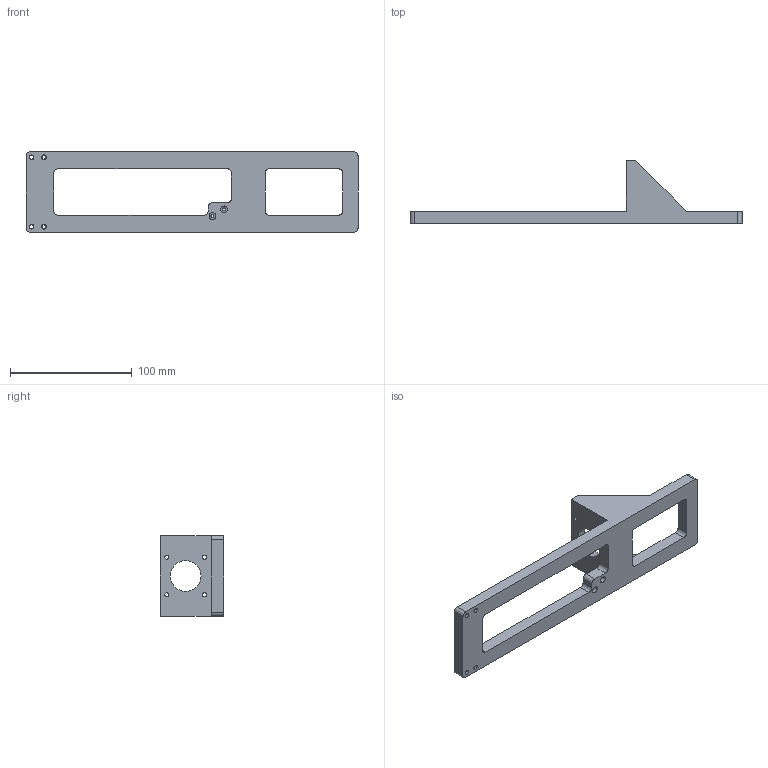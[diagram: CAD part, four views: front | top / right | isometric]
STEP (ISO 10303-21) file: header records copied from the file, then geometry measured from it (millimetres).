
FILE_DESCRIPTION (( 'STEP AP214' ), '1' );
FILE_NAME ('Base, Desk Top, Biolink R01.STEP', '2026-07-27T21:05:46', ( '' ), ( '' ), 'SwSTEP 2.0', 'SolidWorks 2025', '' );
FILE_SCHEMA (( 'AUTOMOTIVE_DESIGN' ));
Length unit declared in the file: inch
Products named in the file (1): Base, Desk Top, Biolink R01
Bounding box: 273.05 x 52.07 x 66.04 mm (x, y, z)
Volume: 127287 mm3; surface area: 45489.9 mm2
Topology: 1 solids, 1 shells, 94 faces, 246 edges, 158 vertices
Faces by surface type: cylinder 50, plane 36, cone 8
Entity records: 2983 total; most frequent: DIRECTION 532, CARTESIAN_POINT 505, ORIENTED_EDGE 492, EDGE_CURVE 246, AXIS2_PLACEMENT_3D 193, VERTEX_POINT 158, LINE 146, VECTOR 146
